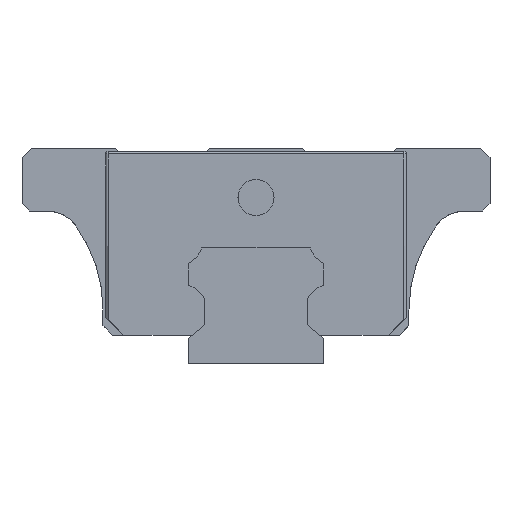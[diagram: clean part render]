
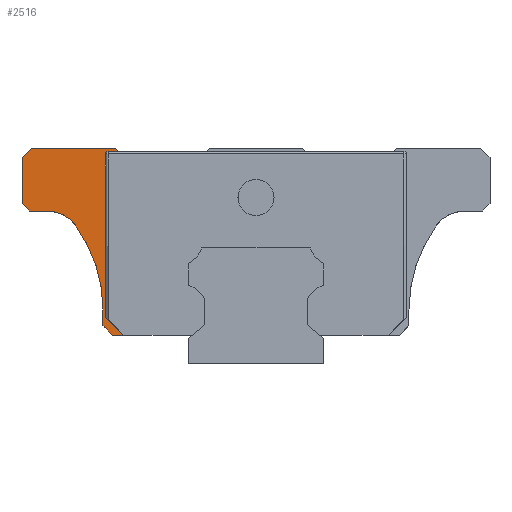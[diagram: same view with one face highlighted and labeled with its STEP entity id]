
A CAD part, left-side view. The second image highlights one B-rep face of the part: STEP entity #2516.
In plain terms, the highlighted planar face has unit normal (-1, 0, 0).
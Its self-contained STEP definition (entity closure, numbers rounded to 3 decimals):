
#22 = EDGE_CURVE ( 'NONE', #2769, #3447, #6356, .T. ) ;
#29 = CARTESIAN_POINT ( 'NONE',  ( -11.45, -6.587, 3.2 ) ) ;
#66 = VECTOR ( 'NONE', #3441, 1000. ) ;
#105 = VECTOR ( 'NONE', #726, 1000. ) ;
#224 = VERTEX_POINT ( 'NONE', #819 ) ;
#414 = EDGE_CURVE ( 'NONE', #2852, #1103, #2244, .T. ) ;
#422 = VECTOR ( 'NONE', #5689, 1000. ) ;
#620 = CARTESIAN_POINT ( 'NONE',  ( -11.45, 26., 24. ) ) ;
#726 = DIRECTION ( 'NONE',  ( 0., 0., -1. ) ) ;
#760 = AXIS2_PLACEMENT_3D ( 'NONE', #2819, #5077, #1080 ) ;
#765 = CARTESIAN_POINT ( 'NONE',  ( -11.45, 17., 6. ) ) ;
#793 = VERTEX_POINT ( 'NONE', #3496 ) ;
#819 = CARTESIAN_POINT ( 'NONE',  ( -11.45, 26., 17.8 ) ) ;
#902 = DIRECTION ( 'NONE',  ( 0., -0.707, -0.707 ) ) ;
#903 = ORIENTED_EDGE ( 'NONE', *, *, #2778, .T. ) ;
#1080 = DIRECTION ( 'NONE',  ( 0., 0., 1. ) ) ;
#1103 = VERTEX_POINT ( 'NONE', #3831 ) ;
#1131 = DIRECTION ( 'NONE',  ( 0., 0., 1. ) ) ;
#1173 = DIRECTION ( 'NONE',  ( 0., -1., 0. ) ) ;
#1205 = LINE ( 'NONE', #2829, #5010 ) ;
#1223 = CARTESIAN_POINT ( 'NONE',  ( -11.45, 17., 6. ) ) ;
#1301 = EDGE_CURVE ( 'NONE', #5857, #6802, #4555, .T. ) ;
#1363 = VECTOR ( 'NONE', #7125, 1000. ) ;
#1390 = EDGE_CURVE ( 'NONE', #5788, #4125, #7197, .T. ) ;
#1492 = VERTEX_POINT ( 'NONE', #6101 ) ;
#1586 = EDGE_CURVE ( 'NONE', #4125, #4849, #1701, .T. ) ;
#1604 = CARTESIAN_POINT ( 'NONE',  ( -11.45, 15.6, 24. ) ) ;
#1607 = EDGE_CURVE ( 'NONE', #4445, #5127, #1665, .T. ) ;
#1665 = LINE ( 'NONE', #3925, #422 ) ;
#1701 = LINE ( 'NONE', #3888, #66 ) ;
#1715 = CARTESIAN_POINT ( 'NONE',  ( -11.45, 25.2, 17. ) ) ;
#1756 = CARTESIAN_POINT ( 'NONE',  ( -11.45, 16.442, 23.595 ) ) ;
#1762 = EDGE_LOOP ( 'NONE', ( #6978, #3113, #2894, #5128, #7047, #6290, #6912, #5760, #2482, #4422, #4266, #903, #5600, #6696, #3398 ) ) ;
#1768 = CARTESIAN_POINT ( 'NONE',  ( -11.45, 16.702, 23.335 ) ) ;
#1880 = CARTESIAN_POINT ( 'NONE',  ( -11.45, 17.674, 3.2 ) ) ;
#1988 = DIRECTION ( 'NONE',  ( 0., -1., 0. ) ) ;
#2127 = CARTESIAN_POINT ( 'NONE',  ( -11.45, 14.702, 3.2 ) ) ;
#2168 = DIRECTION ( 'NONE',  ( -1., 0., 0. ) ) ;
#2223 = AXIS2_PLACEMENT_3D ( 'NONE', #5230, #6986, #4081 ) ;
#2230 = VECTOR ( 'NONE', #1173, 1000. ) ;
#2244 = LINE ( 'NONE', #2389, #2230 ) ;
#2265 = DIRECTION ( 'NONE',  ( 0., 1., 0. ) ) ;
#2286 = CARTESIAN_POINT ( 'NONE',  ( -11.45, 15.233, 23.563 ) ) ;
#2338 = VECTOR ( 'NONE', #902, 1000. ) ;
#2384 = CARTESIAN_POINT ( 'NONE',  ( -11.45, 24.95, 24. ) ) ;
#2389 = CARTESIAN_POINT ( 'NONE',  ( -11.45, 25.2, 17. ) ) ;
#2430 = AXIS2_PLACEMENT_3D ( 'NONE', #3115, #4816, #3566 ) ;
#2482 = ORIENTED_EDGE ( 'NONE', *, *, #4728, .T. ) ;
#2516 = ADVANCED_FACE ( 'NONE', ( #2832 ), #6746, .T. ) ;
#2769 = VERTEX_POINT ( 'NONE', #3684 ) ;
#2778 = EDGE_CURVE ( 'NONE', #5788, #4978, #3236, .T. ) ;
#2819 = CARTESIAN_POINT ( 'NONE',  ( -11.45, 16.442, 23.335 ) ) ;
#2829 = CARTESIAN_POINT ( 'NONE',  ( -11.45, 26., 17.8 ) ) ;
#2832 = FACE_OUTER_BOUND ( 'NONE', #1762, .T. ) ;
#2852 = VERTEX_POINT ( 'NONE', #1715 ) ;
#2894 = ORIENTED_EDGE ( 'NONE', *, *, #4963, .T. ) ;
#3113 = ORIENTED_EDGE ( 'NONE', *, *, #3786, .T. ) ;
#3115 = CARTESIAN_POINT ( 'NONE',  ( -11.45, 33., 6. ) ) ;
#3162 = AXIS2_PLACEMENT_3D ( 'NONE', #29, #2168, #1131 ) ;
#3236 = CIRCLE ( 'NONE', #760, 0.26 ) ;
#3398 = ORIENTED_EDGE ( 'NONE', *, *, #5394, .T. ) ;
#3402 = VECTOR ( 'NONE', #1988, 1000. ) ;
#3441 = DIRECTION ( 'NONE',  ( 0., -0.707, -0.707 ) ) ;
#3447 = VERTEX_POINT ( 'NONE', #5397 ) ;
#3496 = CARTESIAN_POINT ( 'NONE',  ( -11.45, 17., 4.25 ) ) ;
#3543 = CARTESIAN_POINT ( 'NONE',  ( -11.45, 26., 22.95 ) ) ;
#3566 = DIRECTION ( 'NONE',  ( 0., 0., 1. ) ) ;
#3684 = CARTESIAN_POINT ( 'NONE',  ( -11.45, 15.26, 23.595 ) ) ;
#3786 = EDGE_CURVE ( 'NONE', #5127, #224, #5207, .T. ) ;
#3831 = CARTESIAN_POINT ( 'NONE',  ( -11.45, 23.253, 17. ) ) ;
#3888 = CARTESIAN_POINT ( 'NONE',  ( -11.45, 16.702, 5.2 ) ) ;
#3925 = CARTESIAN_POINT ( 'NONE',  ( -11.45, 24.95, 24. ) ) ;
#4033 = DIRECTION ( 'NONE',  ( 0., 0.643, 0.766 ) ) ;
#4081 = DIRECTION ( 'NONE',  ( 0., 0., 1. ) ) ;
#4125 = VERTEX_POINT ( 'NONE', #7208 ) ;
#4266 = ORIENTED_EDGE ( 'NONE', *, *, #1390, .F. ) ;
#4422 = ORIENTED_EDGE ( 'NONE', *, *, #1586, .F. ) ;
#4440 = EDGE_CURVE ( 'NONE', #6802, #793, #5832, .T. ) ;
#4445 = VERTEX_POINT ( 'NONE', #2384 ) ;
#4555 = CIRCLE ( 'NONE', #2430, 16. ) ;
#4566 = VECTOR ( 'NONE', #6275, 1000. ) ;
#4716 = VECTOR ( 'NONE', #4033, 1000. ) ;
#4728 = EDGE_CURVE ( 'NONE', #1492, #4849, #6423, .T. ) ;
#4736 = CARTESIAN_POINT ( 'NONE',  ( -11.45, 20.004, 15.333 ) ) ;
#4816 = DIRECTION ( 'NONE',  ( 1., 0., 0. ) ) ;
#4825 = CARTESIAN_POINT ( 'NONE',  ( -11.45, 17., 4.25 ) ) ;
#4849 = VERTEX_POINT ( 'NONE', #2127 ) ;
#4963 = EDGE_CURVE ( 'NONE', #224, #2852, #1205, .T. ) ;
#4978 = VERTEX_POINT ( 'NONE', #1756 ) ;
#5010 = VECTOR ( 'NONE', #6303, 1000. ) ;
#5077 = DIRECTION ( 'NONE',  ( 1., 0., 0. ) ) ;
#5086 = LINE ( 'NONE', #6881, #6817 ) ;
#5127 = VERTEX_POINT ( 'NONE', #3543 ) ;
#5128 = ORIENTED_EDGE ( 'NONE', *, *, #414, .T. ) ;
#5207 = LINE ( 'NONE', #620, #4566 ) ;
#5230 = CARTESIAN_POINT ( 'NONE',  ( -11.45, 23.253, 13. ) ) ;
#5394 = EDGE_CURVE ( 'NONE', #3447, #4445, #6184, .T. ) ;
#5397 = CARTESIAN_POINT ( 'NONE',  ( -11.45, 15.6, 24. ) ) ;
#5600 = ORIENTED_EDGE ( 'NONE', *, *, #6340, .F. ) ;
#5689 = DIRECTION ( 'NONE',  ( 0., 0.707, -0.707 ) ) ;
#5760 = ORIENTED_EDGE ( 'NONE', *, *, #6486, .T. ) ;
#5788 = VERTEX_POINT ( 'NONE', #1768 ) ;
#5832 = LINE ( 'NONE', #765, #105 ) ;
#5857 = VERTEX_POINT ( 'NONE', #4736 ) ;
#6101 = CARTESIAN_POINT ( 'NONE',  ( -11.45, 15.95, 3.2 ) ) ;
#6184 = LINE ( 'NONE', #1604, #7172 ) ;
#6275 = DIRECTION ( 'NONE',  ( 0., 0., -1. ) ) ;
#6290 = ORIENTED_EDGE ( 'NONE', *, *, #1301, .T. ) ;
#6303 = DIRECTION ( 'NONE',  ( 0., -0.707, -0.707 ) ) ;
#6340 = EDGE_CURVE ( 'NONE', #2769, #4978, #5086, .T. ) ;
#6356 = LINE ( 'NONE', #2286, #4716 ) ;
#6371 = LINE ( 'NONE', #4825, #2338 ) ;
#6397 = EDGE_CURVE ( 'NONE', #1103, #5857, #6475, .T. ) ;
#6406 = DIRECTION ( 'NONE',  ( 0., 1., 0. ) ) ;
#6423 = LINE ( 'NONE', #1880, #3402 ) ;
#6475 = CIRCLE ( 'NONE', #2223, 4. ) ;
#6486 = EDGE_CURVE ( 'NONE', #793, #1492, #6371, .T. ) ;
#6614 = CARTESIAN_POINT ( 'NONE',  ( -11.45, 16.702, 23.125 ) ) ;
#6696 = ORIENTED_EDGE ( 'NONE', *, *, #22, .T. ) ;
#6746 = PLANE ( 'NONE',  #3162 ) ;
#6802 = VERTEX_POINT ( 'NONE', #1223 ) ;
#6817 = VECTOR ( 'NONE', #6406, 1000. ) ;
#6881 = CARTESIAN_POINT ( 'NONE',  ( -11.45, -18.027, 23.595 ) ) ;
#6912 = ORIENTED_EDGE ( 'NONE', *, *, #4440, .T. ) ;
#6978 = ORIENTED_EDGE ( 'NONE', *, *, #1607, .T. ) ;
#6986 = DIRECTION ( 'NONE',  ( 1., 0., 0. ) ) ;
#7047 = ORIENTED_EDGE ( 'NONE', *, *, #6397, .T. ) ;
#7125 = DIRECTION ( 'NONE',  ( 0., 0., -1. ) ) ;
#7172 = VECTOR ( 'NONE', #2265, 1000. ) ;
#7197 = LINE ( 'NONE', #6614, #1363 ) ;
#7208 = CARTESIAN_POINT ( 'NONE',  ( -11.45, 16.702, 5.2 ) ) ;
